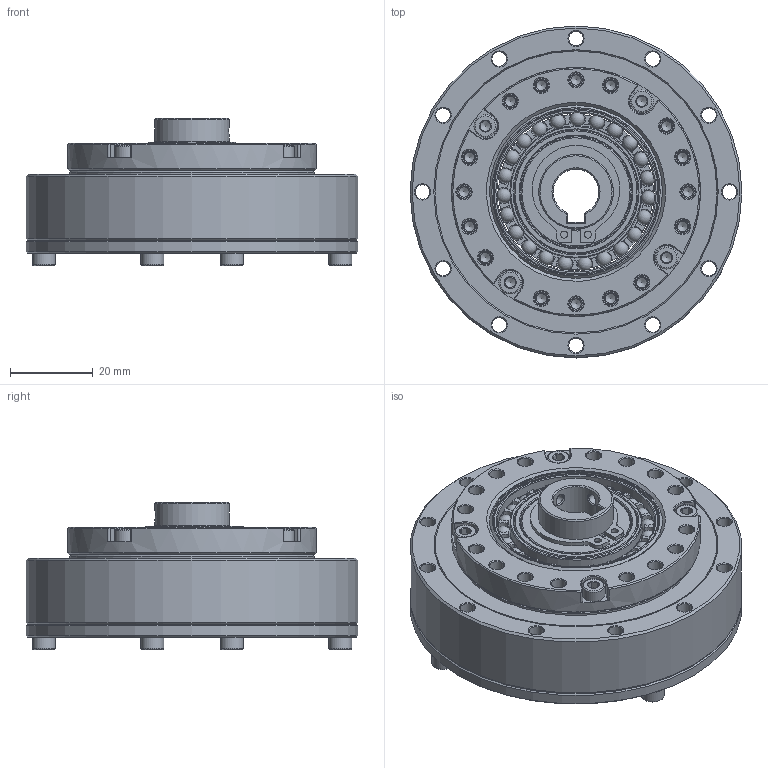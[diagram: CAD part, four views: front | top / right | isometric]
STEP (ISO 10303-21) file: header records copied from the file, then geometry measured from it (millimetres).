
FILE_DESCRIPTION(/* description */ (''),/* implementation_level */ '2;1');
FILE_NAME(/* name */ 'LHG-17-XX-U-II-φ11.stp',/* time_stamp */ '2023-07-08T16:13:20+08:00',/* author */ (''),/* organization */ (''),/* preprocessor_version */ 'ST-DEVELOPER v16.7',/* originating_system */ 'SIEMENS PLM Software NX 12.0',/* authorisation */ '');
FILE_SCHEMA (('AUTOMOTIVE_DESIGN { 1 0 10303 214 3 1 1 1 }'));
Length unit declared in the file: millimetre
Products named in the file (16): EB304006-17KE-01; EB304006-17KC-46; TC-59x68x5; O-47x0.5; O-65x1.5; GB-T70.1-2000,M3x8; 轴用弹性挡圈φ18; 铜垫圈18.5x26.5x1; CS-17-00-02; CSG-17-00-01-K11; CS-17-XX-03; 柔轮LHT-17; 刚轮LHT-17-I; EB304006-17KE; 交叉轴承LHT-17; LHG-17-XX-U-II-φ11
Assembly tree (22 placements, depth 3):
  LHG-17-XX-U-II-φ11
    交叉轴承LHT-17
      TC-59x68x5
    刚轮LHT-17-I
    柔轮LHT-17
    CS-17-XX-03
    CSG-17-00-01-K11
    CS-17-00-02
    铜垫圈18.5x26.5x1
    轴用弹性挡圈φ18
    EB304006-17KE
      EB304006-17KC-46
      EB304006-17KE-01
    GB-T70.1-2000,M3x8  x8
    O-65x1.5
    O-47x0.5
Bounding box: 80 x 80 x 35.5 mm (x, y, z)
Volume: 75257.9 mm3; surface area: 65853.6 mm2
Topology: 46 solids, 46 shells, 968 faces, 2337 edges, 1440 vertices
Faces by surface type: plane 338, cone 276, cylinder 233, torus 92, sphere 23, bspline 4, revolution 2
Full cylindrical faces by diameter (mm): 1.7 x2, 2.5 x30, 2.874 x8, 3.5 x52, 5.5 x8, 17 x1, 18 x2, 18.5 x3, 26.5 x1, 27 x1, 28 x2, 30 x2, 31.88 x2, 33 x1, 34.5 x1, 37.3 x1, 38.16 x2, 40 x2, 40.58 x1, 41.545 x1, 41.703 x1, 44.1 x1, 47 x2, 47.4 x1, 48.4 x1, 55.8 x1, 58.6 x1, 59 x2, 60 x2, 61.3 x2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
Entity records: 22820 total; most frequent: CARTESIAN_POINT 5360, DIRECTION 3686, ORIENTED_EDGE 2854, AXIS2_PLACEMENT_3D 1628, EDGE_CURVE 1427, EDGE_LOOP 1274, VERTEX_POINT 1139, FACE_BOUND 990
